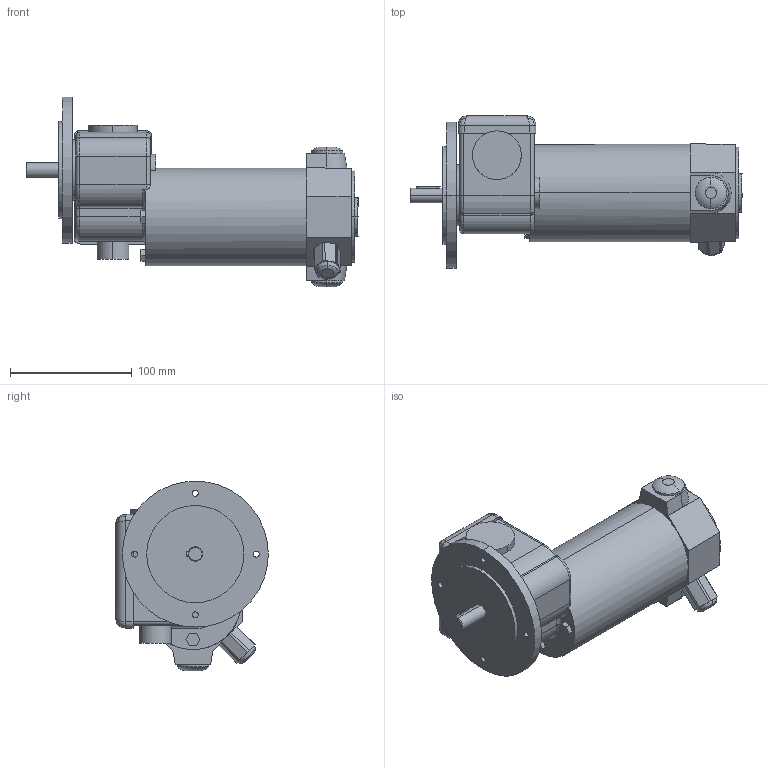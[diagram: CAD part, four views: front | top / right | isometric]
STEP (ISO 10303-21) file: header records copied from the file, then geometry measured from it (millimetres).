
FILE_DESCRIPTION(('OneSpaceDesigner STEP Export'),'2;1');
FILE_NAME('EPG13_GF23-10.stp','2008-07-16T13:04:18',(''),(''),'OneSpace Designer STEP processor (Jan. 2003) for AP214(CD)(Solid Model)','OneSpace Designer 12.01D 09-Jul-2004 (C) CoCreate Software GmbH','');
FILE_SCHEMA(('AUTOMOTIVE_DESIGN_CC2 {1 2 10303 214 -1 1 5 1}'));
Length unit declared in the file: millimetre
Products named in the file (2): EPG13_GF23-10
Assembly tree (1 placements, depth 2):
  EPG13_GF23-10
    EPG13_GF23-10
Bounding box: 273 x 125.5 x 156 mm (x, y, z)
Volume: 1525091 mm3; surface area: 114923.1 mm2
Topology: 1 solids, 1 shells, 167 faces, 413 edges, 262 vertices
Faces by surface type: cylinder 65, plane 65, torus 20, bspline 14, cone 2, sphere 1
Entity records: 8661 total; most frequent: CARTESIAN_POINT 4877, ORIENTED_EDGE 824, DIRECTION 680, EDGE_CURVE 412, VERTEX_POINT 262, AXIS2_PLACEMENT_3D 241, VECTOR 198, LINE 198
